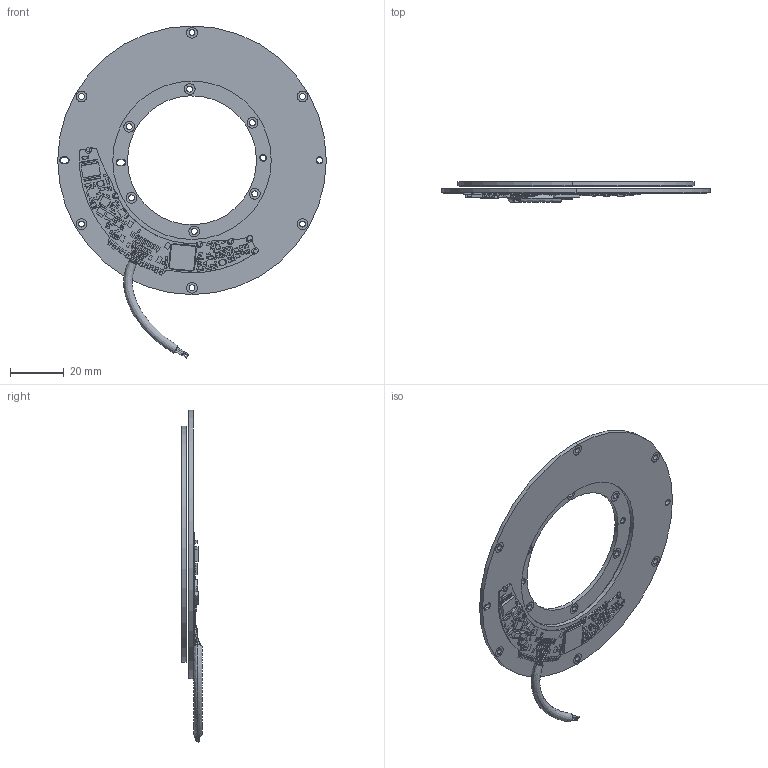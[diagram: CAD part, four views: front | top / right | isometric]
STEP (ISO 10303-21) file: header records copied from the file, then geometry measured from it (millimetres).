
FILE_DESCRIPTION (( 'STEP AP214' ), '1' );
FILE_NAME ('VLP-100.STEP', '2025-03-23T18:10:25', ( '' ), ( '' ), 'SwSTEP 2.0', 'SolidWorks 2022', '' );
FILE_SCHEMA (( 'AUTOMOTIVE_DESIGN' ));
Length unit declared in the file: millimetre
Products named in the file (5): PB-00548; VLP-100; PB-00547_VLX-100; VLP-QR cable; PB-00456-00
Assembly tree (4 placements, depth 2):
  VLP-100
    PB-00547_VLX-100
    PB-00548
    PB-00456-00
    VLP-QR cable
Bounding box: 100 x 7.63 x 123.62 mm (x, y, z)
Volume: 15692.7 mm3; surface area: 23601 mm2
Topology: 109 solids, 109 shells, 3916 faces, 9330 edges, 6220 vertices
Faces by surface type: plane 2435, cylinder 1462, bspline 19
Entity records: 160509 total; most frequent: CARTESIAN_POINT 23512, DIRECTION 20080, ORIENTED_EDGE 18660, EDGE_CURVE 9330, AXIS2_PLACEMENT_3D 6880, VECTOR 6320, LINE 6320, VERTEX_POINT 6220
